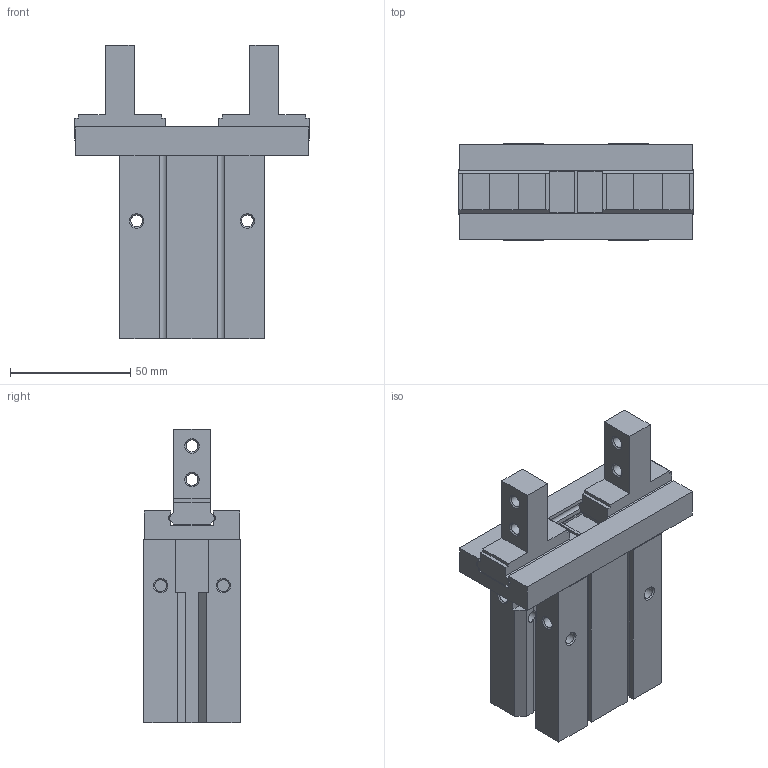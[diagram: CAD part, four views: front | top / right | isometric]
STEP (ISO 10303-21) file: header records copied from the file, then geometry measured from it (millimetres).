
FILE_DESCRIPTION( ( 'STEP AP214' ), '1' );
FILE_NAME( 'F:/CRG-3D-PAN-XU/CRG-chan pin kai fa cun dang - xu/协助/样品整理/平行夹/MHZ2-32S_48_0_.stp', '2023-03-07T10:06:20', ( '' ), ( '' ), ' ', 'PARTsolutions', ' ' );
FILE_SCHEMA( ( 'AUTOMOTIVE_DESIGN { 1 0 10303 214 1 1 1 1 }' ) );
Length unit declared in the file: millimetre
Products named in the file (3): MHZ2-32S(48_0); _MHZ2-32S_Body(0); _MHZ2-32S_Finger(0)
Assembly tree (3 placements, depth 2):
  MHZ2-32S(48_0)
    _MHZ2-32S_Body(0)
    _MHZ2-32S_Finger(0)  x2
Bounding box: 97.4 x 40 x 122 mm (x, y, z)
Volume: 211912.8 mm3; surface area: 44749.3 mm2
Topology: 3 solids, 3 shells, 199 faces, 511 edges, 327 vertices
Faces by surface type: plane 149, cylinder 29, cone 21
Full cylindrical faces by diameter (mm): 4.134 x1, 4.917 x12, 5 x1, 5.1 x4, 34 x1
Entity records: 5986 total; most frequent: CARTESIAN_POINT 801, DIRECTION 784, ORIENTED_EDGE 750, EDGE_CURVE 375, LINE 296, VECTOR 296, VERTEX_POINT 261, AXIS2_PLACEMENT_3D 244
